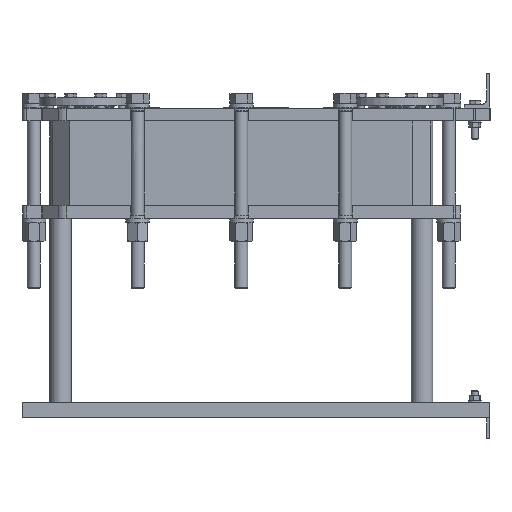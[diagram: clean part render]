
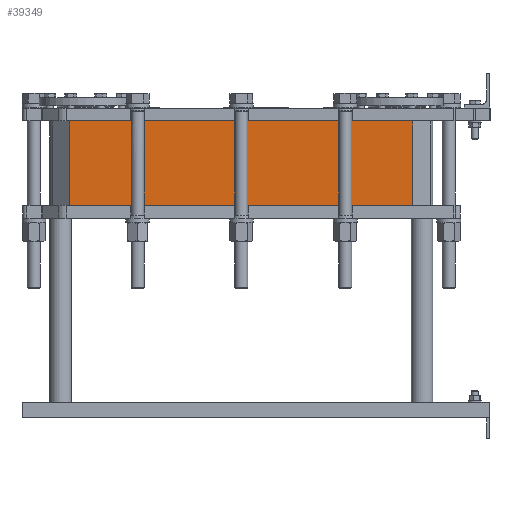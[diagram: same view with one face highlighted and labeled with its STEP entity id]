
A CAD part, left-side view. The second image highlights one B-rep face of the part: STEP entity #39349.
In plain terms, the highlighted planar face has unit normal (-1, 0, 0).
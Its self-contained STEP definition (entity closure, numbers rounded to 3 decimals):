
#2399 = EDGE_CURVE ( 'NONE', #47015, #14223, #35997, .T. ) ;
#11464 = CARTESIAN_POINT ( 'NONE',  ( 43.5, 178., -305. ) ) ;
#14223 = VERTEX_POINT ( 'NONE', #11464 ) ;
#17834 = ORIENTED_EDGE ( 'NONE', *, *, #79765, .F. ) ;
#22823 = DIRECTION ( 'NONE',  ( 0., 1., 0. ) ) ;
#23029 = VERTEX_POINT ( 'NONE', #39357 ) ;
#23181 = ORIENTED_EDGE ( 'NONE', *, *, #2399, .F. ) ;
#23599 = CARTESIAN_POINT ( 'NONE',  ( 43.5, 178., -110. ) ) ;
#24001 = DIRECTION ( 'NONE',  ( 0., -1., 0. ) ) ;
#24025 = EDGE_LOOP ( 'NONE', ( #17834, #102765, #100599, #23181 ) ) ;
#27476 = VECTOR ( 'NONE', #24001, 1000. ) ;
#27529 = VECTOR ( 'NONE', #58508, 1000. ) ;
#29682 = LINE ( 'NONE', #58078, #55195 ) ;
#31591 = DIRECTION ( 'NONE',  ( 0., 0., -1. ) ) ;
#35997 = LINE ( 'NONE', #66869, #27529 ) ;
#39349 = ADVANCED_FACE ( 'NONE', ( #96307 ), #95698, .T. ) ;
#39357 = CARTESIAN_POINT ( 'NONE',  ( 43.5, 971., -110. ) ) ;
#46591 = CARTESIAN_POINT ( 'NONE',  ( 43.5, 971., -305. ) ) ;
#47015 = VERTEX_POINT ( 'NONE', #52959 ) ;
#50585 = CARTESIAN_POINT ( 'NONE',  ( 43.5, 971., -305. ) ) ;
#51547 = LINE ( 'NONE', #78224, #27476 ) ;
#51611 = EDGE_CURVE ( 'NONE', #23029, #51789, #29682, .T. ) ;
#51789 = VERTEX_POINT ( 'NONE', #50585 ) ;
#52959 = CARTESIAN_POINT ( 'NONE',  ( 43.5, 178., -110. ) ) ;
#55195 = VECTOR ( 'NONE', #31591, 1000. ) ;
#55281 = DIRECTION ( 'NONE',  ( 0., 1., 0. ) ) ;
#56742 = VECTOR ( 'NONE', #55281, 1000. ) ;
#58078 = CARTESIAN_POINT ( 'NONE',  ( 43.5, 971., -110. ) ) ;
#58508 = DIRECTION ( 'NONE',  ( 0., 0., -1. ) ) ;
#66869 = CARTESIAN_POINT ( 'NONE',  ( 43.5, 178., -110. ) ) ;
#68284 = DIRECTION ( 'NONE',  ( -1., 0., 0. ) ) ;
#78224 = CARTESIAN_POINT ( 'NONE',  ( 43.5, 971., -110. ) ) ;
#79765 = EDGE_CURVE ( 'NONE', #23029, #47015, #51547, .T. ) ;
#80951 = LINE ( 'NONE', #46591, #56742 ) ;
#93456 = AXIS2_PLACEMENT_3D ( 'NONE', #23599, #68284, #22823 ) ;
#95698 = PLANE ( 'NONE',  #93456 ) ;
#96307 = FACE_OUTER_BOUND ( 'NONE', #24025, .T. ) ;
#100599 = ORIENTED_EDGE ( 'NONE', *, *, #108204, .F. ) ;
#102765 = ORIENTED_EDGE ( 'NONE', *, *, #51611, .T. ) ;
#108204 = EDGE_CURVE ( 'NONE', #14223, #51789, #80951, .T. ) ;
